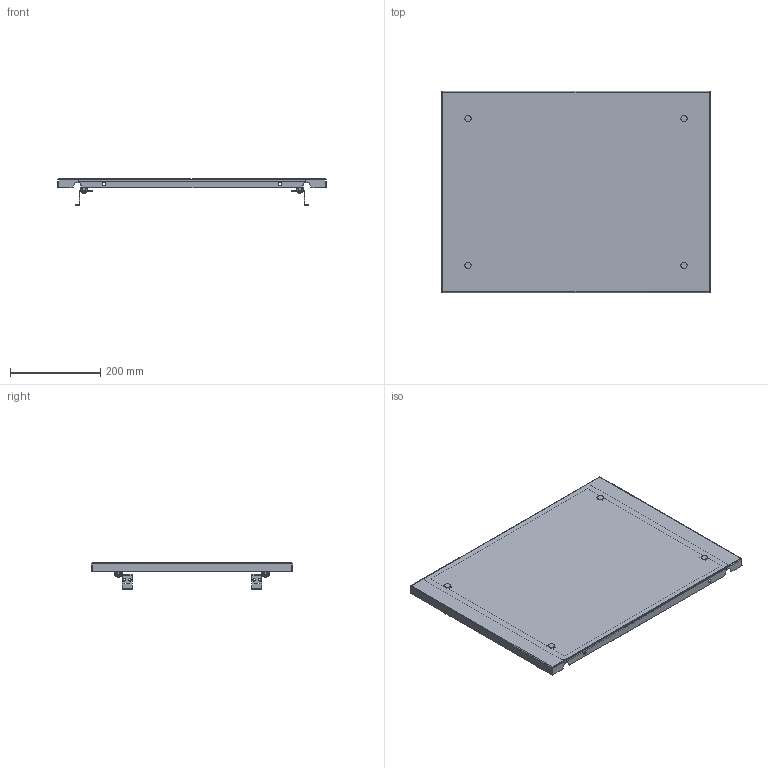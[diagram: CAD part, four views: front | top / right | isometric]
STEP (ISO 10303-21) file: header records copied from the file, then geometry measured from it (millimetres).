
FILE_DESCRIPTION(('CAx-IF Rec.Pracs.---Model Styling and Organization---1.2---2011-12-15','CAx-IF Rec.Pracs.---Geometric and Assembly Validation Properties---4.1---2014-06-16','CAx-IF Rec.Pracs.---PMI Polyline Presentation---2.0---2013-05-24'),'2;1');
FILE_NAME('R5CPFEM6450.stp','2021-05-06T03:38:51+03:00',(''),(''),'STEP Interface 4.4 by CT CoreTechnologie','3D_Evolution4.4 by CT CoreTechnologie','');
FILE_SCHEMA(('AUTOMOTIVE_DESIGN { 1 0 10303 214 1 1 1 1 }'));
Length unit declared in the file: millimetre
Products named in the file (11): R5CPFEM6450; A1100001; M6x16-DIN 7985 ISR_thread; AC00C172_AC00C172; RB.0901.00.00.0 ÑÁ_-01; AC00C061_AC00C061; RB.0901.00.01.0_-01; PF 7x14 R5CPFEM_0450x0600; Ì6õ12-A5100231_straight; RB.0544.00.00.1_-01; RB.0544.00.00.1_-00
Assembly tree (21 placements, depth 3):
  R5CPFEM6450
    A1100001  x4
    M6x16-DIN 7985 ISR_thread  x4
    AC00C172_AC00C172  x4
    RB.0901.00.00.0 ÑÁ_-01
      AC00C061_AC00C061
      RB.0901.00.01.0_-01
      PF 7x14 R5CPFEM_0450x0600
      Ì6õ12-A5100231_straight
    RB.0544.00.00.1_-01  x2
    RB.0544.00.00.1_-00  x2
Bounding box: 594 x 445 x 61 mm (x, y, z)
Surface area: 696703.4 mm2 (no closed solid volume)
Topology: 0 solids, 30 shells, 490 faces, 1269 edges, 843 vertices
Faces by surface type: plane 326, cylinder 128, bspline 36
Entity records: 9222 total; most frequent: CARTESIAN_POINT 2120, ORIENTED_EDGE 1346, DIRECTION 1318, EDGE_CURVE 673, VECTOR 496, LINE 496, VERTEX_POINT 447, AXIS2_PLACEMENT_3D 411
